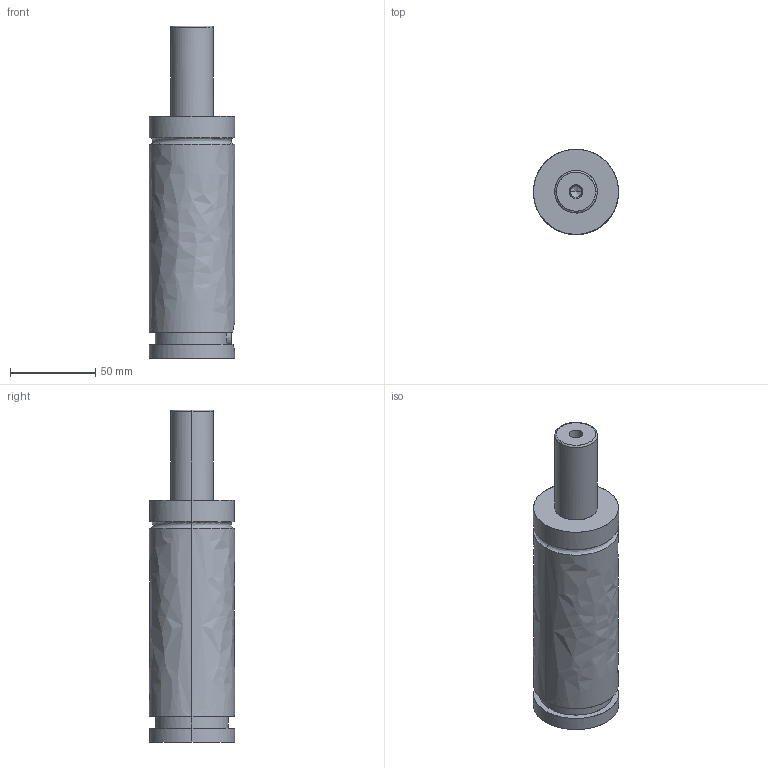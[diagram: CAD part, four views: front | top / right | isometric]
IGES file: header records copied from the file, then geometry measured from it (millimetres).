
Global section: file name: E:\UnigraphicsGraphicData\MISUMI_PRESS-PARTS\IGES\3d_gse50-50_03856_r00.igs; native system: NX V5.0; preprocessor: UGS NX IGES V5.0; author: MISUMI; date: 20110105.160800; units: millimetre
Bounding box: 50 x 50 x 195 mm (x, y, z)
Surface area: 32912.2 mm2 (no closed solid volume)
Topology: 0 solids, 0 shells, 57 faces, 453 edges, 451 vertices
Faces by surface type: bspline 57
